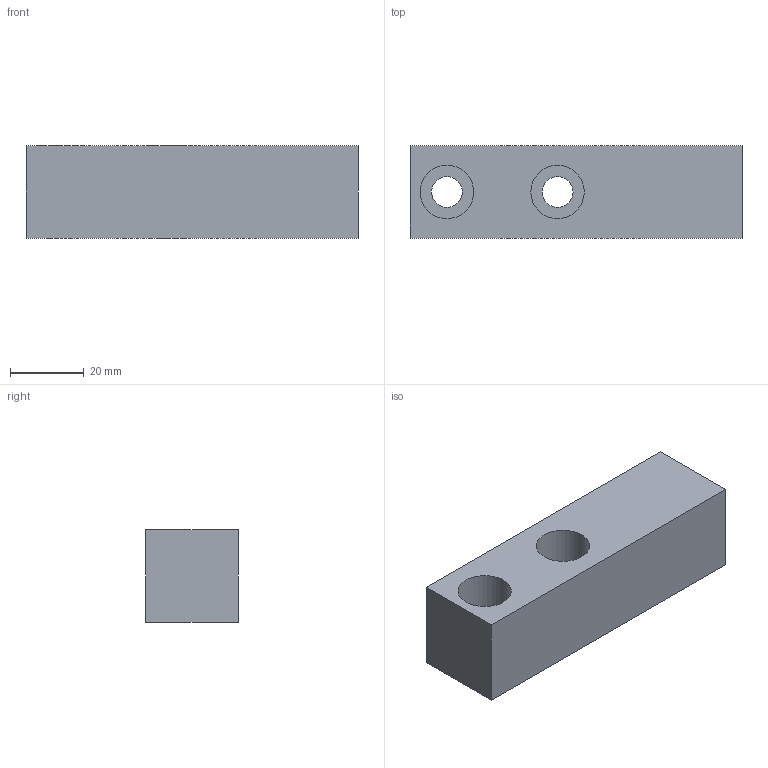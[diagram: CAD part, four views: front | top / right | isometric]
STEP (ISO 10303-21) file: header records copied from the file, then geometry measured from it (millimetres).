
FILE_DESCRIPTION(/* description */ ('PANCAKE STOP ASSEMBLY'),/* implementation_level */ '2;1');
FILE_NAME(/* name */ 'C:\Users\rcarver\Desktop\PANCAKE STOPS\WPS-06-00.stp',/* time_stamp */ '2016-12-20T14:50:39-05:00',/* author */ ('rcarver'),/* organization */ (''),/* preprocessor_version */ 'ST-DEVELOPER v16.5',/* originating_system */ 'Autodesk Inventor 2017',/* authorisation */ '');
FILE_SCHEMA (('AUTOMOTIVE_DESIGN { 1 0 10303 214 3 1 1 }'));
Length unit declared in the file: millimetre
Products named in the file (2): WPSL01; WPSE06
Assembly tree (1 placements, depth 2):
  WPSL01
    WPSE06
Bounding box: 90 x 25 x 25 mm (x, y, z)
Volume: 50634.2 mm3; surface area: 11845.5 mm2
Topology: 1 solids, 1 shells, 12 faces, 24 edges, 16 vertices
Faces by surface type: plane 8, cylinder 4
Full cylindrical faces by diameter (mm): 8.376 x2, 14.5 x2
Entity records: 360 total; most frequent: DIRECTION 58, CARTESIAN_POINT 51, ORIENTED_EDGE 40, AXIS2_PLACEMENT_3D 23, EDGE_LOOP 22, EDGE_CURVE 20, VERTEX_POINT 16, LINE 12
